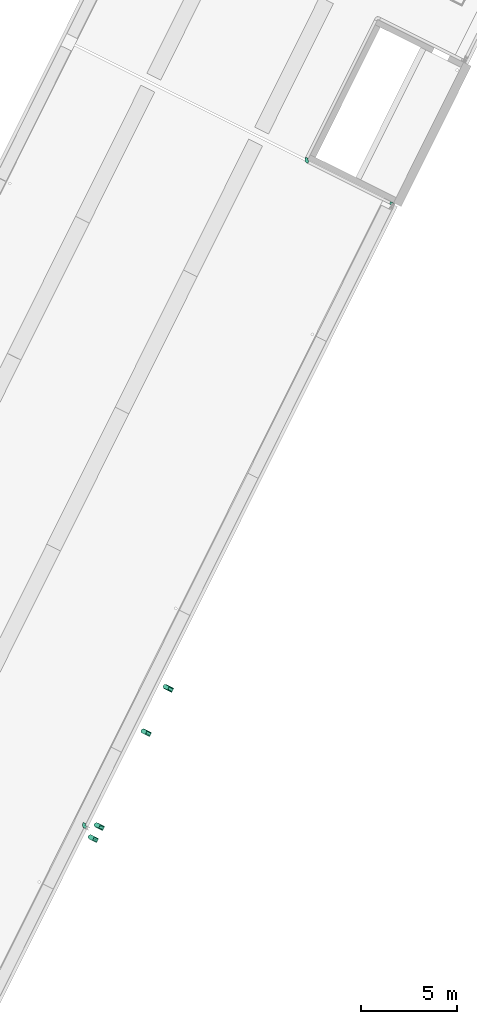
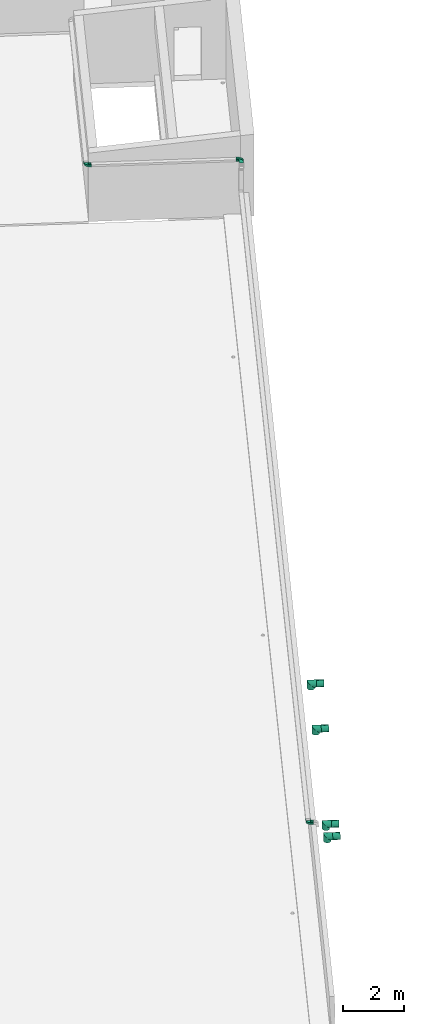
# One storey, part 17 of 34: 7 flow fittings, 4 flow segments.
"""IFC2X3 building model written with IfcOpenShell, lengths in metres."""

from ifc_helpers import new_model, entity, si_unit, converted_unit, derived_unit, direction, frame, origin, origin_2d_with_axis, place, context, subcontext, project, spatial, circle, extrude, faceted_brep, source, transform, mapped, type_object, type_shapes, element, save


model = new_model("IFC2X3")

# Units and contexts
model_context = context("Model", 3, precision=1e-05, world=origin(), true_north=direction((0.894925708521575, 0.446215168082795)))
context_of_model = context(None, 3, precision=1e-05, world=origin(), true_north=direction((0.894925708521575, 0.446215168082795)))
body_context = subcontext(model_context, "Body", "Model", "MODEL_VIEW")
ifc_project = project(units=[si_unit("LENGTHUNIT", "METRE"), si_unit("AREAUNIT", "SQUARE_METRE"), si_unit("VOLUMEUNIT", "CUBIC_METRE"), converted_unit("PLANEANGLEUNIT", "DEGREE", entity("IfcRatioMeasure", 0.0174532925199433), si_unit("PLANEANGLEUNIT", "RADIAN"), dimensions=[0, 0, 0, 0, 0, 0, 0]), si_unit("MASSUNIT", "GRAM", prefix="KILO"), si_unit("TIMEUNIT", "SECOND"), si_unit("FREQUENCYUNIT", "HERTZ"), si_unit("THERMODYNAMICTEMPERATUREUNIT", "DEGREE_CELSIUS"), derived_unit("THERMALTRANSMITTANCEUNIT", [(si_unit("MASSUNIT", "GRAM", prefix="KILO"), 1), (si_unit("THERMODYNAMICTEMPERATUREUNIT", "KELVIN"), -1), (si_unit("TIMEUNIT", "SECOND"), -3)]), derived_unit("VOLUMETRICFLOWRATEUNIT", [(si_unit("LENGTHUNIT", "METRE"), 3), (si_unit("TIMEUNIT", "SECOND"), -1)]), si_unit("ELECTRICCURRENTUNIT", "AMPERE"), si_unit("ELECTRICVOLTAGEUNIT", "VOLT"), si_unit("POWERUNIT", "WATT"), si_unit("FORCEUNIT", "NEWTON", prefix="KILO"), si_unit("ILLUMINANCEUNIT", "LUX"), si_unit("LUMINOUSFLUXUNIT", "LUMEN"), si_unit("LUMINOUSINTENSITYUNIT", "CANDELA"), si_unit("PRESSUREUNIT", "PASCAL")], contexts=[model_context, context_of_model])

# Site, building, storey
site_placement = place(None, frame((218.228324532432, 584.720189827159, 0.0), z_axis=(0.0, 0.0, 1.0), x_axis=(0.446215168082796, 0.894925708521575, 0.0)))
site = spatial("IfcSite", under=ifc_project, at=site_placement, Name="Default", CompositionType="ELEMENT")
building_placement = place(site_placement, origin())
building = spatial("IfcBuilding", under=site, at=building_placement, CompositionType="ELEMENT")
storey_placement = place(building_placement, frame((0.0, 0.0, 8.61)))
storey = spatial("IfcBuildingStorey", under=building, at=storey_placement, Name="2 - Piano Secondo", CompositionType="ELEMENT", Elevation=8.61)

# Flow fittings
duct_fitting_type = type_object("IfcDuctFittingType", Name="Standard", PredefinedType="NOTDEFINED")
shared_shape_1 = source(origin(), body_context, "Body", "Brep", [
    faceted_brep([(-0.0883883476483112, 0.175297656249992, -0.0883883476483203), (-0.108253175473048, 0.175297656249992, -0.0625000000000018), (-0.120740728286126, 0.175297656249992, -0.0323523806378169), (-0.124999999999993, 0.175297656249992, 0.0), (-0.120740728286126, 0.175297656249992, 0.0323523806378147), (-0.108253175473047, 0.175297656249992, 0.0624999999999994), (-0.0883883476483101, 0.175297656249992, 0.0883883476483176), (-0.0624999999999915, 0.175297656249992, 0.108253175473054), (-0.0323523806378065, 0.175297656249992, 0.120740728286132), (0.0, 0.175297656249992, 0.124999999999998), (0.0323523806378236, 0.175297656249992, 0.120740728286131), (0.0625000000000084, 0.175297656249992, 0.108253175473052), (0.0883883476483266, 0.175297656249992, 0.0883883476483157), (0.108253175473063, 0.175297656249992, 0.062499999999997), (0.120740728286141, 0.175297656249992, 0.032352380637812), (0.125000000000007, 0.175297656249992, 0.0), (0.120740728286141, 0.175297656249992, -0.0323523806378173), (0.108253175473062, 0.175297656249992, -0.0625000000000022), (0.0883883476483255, 0.175297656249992, -0.0883883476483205), (0.0625000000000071, 0.175297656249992, -0.108253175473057), (0.0323523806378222, 0.175297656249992, -0.120740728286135), (0.0, 0.175297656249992, -0.125000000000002), (-0.032352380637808, 0.175297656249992, -0.120740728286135), (-0.0624999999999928, 0.175297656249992, -0.108253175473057), (0.120740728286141, 0.125297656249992, 0.032352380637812), (0.12074072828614, -0.120740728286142, 0.0323523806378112), (0.125000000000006, -0.125000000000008, 0.0), (0.125000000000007, 0.125297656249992, 0.0), (0.108253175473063, 0.125297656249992, 0.062499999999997), (0.108253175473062, -0.108253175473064, 0.0624999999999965), (0.0883883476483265, 0.125297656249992, 0.0883883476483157), (0.0625000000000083, 0.125297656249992, 0.108253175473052), (0.0625000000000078, -0.0625000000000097, 0.108253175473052), (0.0883883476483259, -0.0883883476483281, 0.0883883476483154), (0.0323523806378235, 0.125297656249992, 0.120740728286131), (0.0323523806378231, -0.032352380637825, 0.120740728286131), (0.0, 0.125297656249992, 0.124999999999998), (0.0, 0.0, 0.124999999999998), (-0.0624999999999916, 0.125297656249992, 0.108253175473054), (-0.0624999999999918, 0.0624999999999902, 0.108253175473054), (-0.0323523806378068, 0.0323523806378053, 0.120740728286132), (-0.0323523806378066, 0.125297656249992, 0.120740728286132), (-0.0883883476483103, 0.125297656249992, 0.0883883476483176), (-0.0883883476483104, 0.0883883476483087, 0.0883883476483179), (-0.108253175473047, 0.125297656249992, 0.0624999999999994), (-0.120740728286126, 0.125297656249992, 0.0323523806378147), (-0.120740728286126, 0.120740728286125, 0.0323523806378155), (-0.108253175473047, 0.108253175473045, 0.0624999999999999), (-0.124999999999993, 0.125297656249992, 0.0), (-0.124999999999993, 0.124999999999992, 0.0), (-0.120740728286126, 0.125297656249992, -0.0323523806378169), (-0.120740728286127, 0.120740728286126, -0.0323523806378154), (-0.108253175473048, 0.125297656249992, -0.0625000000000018), (-0.108253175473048, 0.108253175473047, -0.0625000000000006), (-0.0883883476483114, 0.125297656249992, -0.0883883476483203), (-0.062499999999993, 0.125297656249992, -0.108253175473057), (-0.0624999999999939, 0.0624999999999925, -0.108253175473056), (-0.088388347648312, 0.0883883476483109, -0.0883883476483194), (-0.0323523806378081, 0.125297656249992, -0.120740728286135), (-0.0323523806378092, 0.0323523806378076, -0.120740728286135), (0.0, 0.125297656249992, -0.125000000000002), (0.0, 0.0, -0.125000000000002), (0.0625000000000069, 0.125297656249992, -0.108253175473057), (0.0883883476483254, 0.125297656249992, -0.0883883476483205), (0.0883883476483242, -0.0883883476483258, -0.0883883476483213), (0.0625000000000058, -0.0625000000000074, -0.108253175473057), (0.0323523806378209, -0.0323523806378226, -0.120740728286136), (0.0323523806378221, 0.125297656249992, -0.120740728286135), (0.120740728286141, 0.125297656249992, -0.0323523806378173), (0.12074072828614, -0.120740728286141, -0.0323523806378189), (0.108253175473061, -0.108253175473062, -0.0625000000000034), (0.108253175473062, 0.125297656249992, -0.0625000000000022), (-0.125297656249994, -0.125000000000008, 0.0), (-0.125297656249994, -0.120740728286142, 0.032352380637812), (-0.175297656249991, -0.120740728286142, 0.032352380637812), (-0.175297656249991, -0.125000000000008, 0.0), (-0.125297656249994, -0.108253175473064, 0.062499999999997), (-0.175297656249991, -0.108253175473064, 0.062499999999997), (-0.125297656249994, -0.0883883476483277, 0.0883883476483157), (-0.125297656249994, -0.0625000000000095, 0.108253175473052), (-0.175297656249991, -0.0625000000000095, 0.108253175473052), (-0.175297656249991, -0.0883883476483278, 0.0883883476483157), (-0.125297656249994, -0.0323523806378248, 0.120740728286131), (-0.175297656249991, -0.0323523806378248, 0.120740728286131), (-0.125297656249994, 0.0, 0.124999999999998), (-0.175297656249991, 0.0, 0.124999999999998), (-0.125297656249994, 0.0883883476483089, 0.0883883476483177), (-0.175297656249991, 0.088388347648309, 0.0883883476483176), (-0.175297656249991, 0.0624999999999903, 0.108253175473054), (-0.125297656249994, 0.0624999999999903, 0.108253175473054), (-0.175297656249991, 0.0323523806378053, 0.120740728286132), (-0.125297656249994, 0.0323523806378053, 0.120740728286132), (-0.125297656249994, 0.124999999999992, 0.0), (-0.175297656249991, 0.124999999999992, 0.0), (-0.175297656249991, 0.120740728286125, 0.0323523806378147), (-0.125297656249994, 0.120740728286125, 0.0323523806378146), (-0.175297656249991, 0.108253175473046, 0.0624999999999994), (-0.125297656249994, 0.108253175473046, 0.0624999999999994), (-0.125297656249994, 0.0883883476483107, -0.0883883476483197), (-0.175297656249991, 0.0883883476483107, -0.0883883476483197), (-0.175297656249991, 0.108253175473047, -0.0625000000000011), (-0.125297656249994, 0.108253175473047, -0.0625000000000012), (-0.175297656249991, 0.120740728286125, -0.0323523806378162), (-0.125297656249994, 0.120740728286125, -0.0323523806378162), (-0.125297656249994, 0.0323523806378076, -0.120740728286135), (-0.125297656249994, 0.0, -0.125000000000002), (-0.175297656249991, 0.0, -0.125000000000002), (-0.175297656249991, 0.0323523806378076, -0.120740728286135), (-0.175297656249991, 0.0624999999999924, -0.108253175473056), (-0.125297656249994, 0.0624999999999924, -0.108253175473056), (-0.125297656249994, -0.0625000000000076, -0.108253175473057), (-0.175297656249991, -0.0625000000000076, -0.108253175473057), (-0.175297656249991, -0.0323523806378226, -0.120740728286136), (-0.125297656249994, -0.0323523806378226, -0.120740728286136), (-0.125297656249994, -0.0883883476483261, -0.088388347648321), (-0.175297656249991, -0.0883883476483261, -0.088388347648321), (-0.125297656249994, -0.120740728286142, -0.032352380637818), (-0.175297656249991, -0.120740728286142, -0.032352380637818), (-0.175297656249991, -0.108253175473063, -0.0625000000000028), (-0.125297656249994, -0.108253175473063, -0.0625000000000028)], [[[0, 1, 2, 3, 4, 5, 6, 7, 8, 9, 10, 11, 12, 13, 14, 15, 16, 17, 18, 19, 20, 21, 22, 23]], [[14, 24, 25, 26, 27, 15]], [[13, 28, 29, 25, 24, 14]], [[30, 12, 11, 31, 32, 33]], [[13, 12, 30, 33, 29, 28]], [[31, 11, 10, 34, 35, 32]], [[34, 10, 9, 36, 37, 35]], [[7, 38, 39, 40, 41, 8]], [[6, 42, 43, 39, 38, 7]], [[44, 5, 4, 45, 46, 47]], [[6, 5, 44, 47, 43, 42]], [[45, 4, 3, 48, 49, 46]], [[41, 40, 37, 36, 9, 8]], [[2, 50, 51, 49, 48, 3]], [[1, 52, 53, 51, 50, 2]], [[54, 0, 23, 55, 56, 57]], [[1, 0, 54, 57, 53, 52]], [[55, 23, 22, 58, 59, 56]], [[58, 22, 21, 60, 61, 59]], [[62, 19, 18, 63, 64, 65]], [[20, 19, 62, 65, 66, 67]], [[68, 69, 70, 71, 17, 16]], [[17, 71, 70, 64, 63, 18]], [[15, 27, 26, 69, 68, 16]], [[20, 67, 66, 61, 60, 21]], [[72, 26, 25, 73, 74, 75]], [[29, 76, 77, 74, 73, 25]], [[78, 33, 32, 79, 80, 81]], [[29, 33, 78, 81, 77, 76]], [[79, 32, 35, 82, 83, 80]], [[37, 84, 85, 83, 82, 35]], [[39, 43, 86, 87, 88, 89]], [[40, 39, 89, 88, 90, 91]], [[46, 49, 92, 93, 94, 95]], [[47, 46, 95, 94, 96, 97]], [[43, 47, 97, 96, 87, 86]], [[40, 91, 90, 85, 84, 37]], [[53, 57, 98, 99, 100, 101]], [[51, 53, 101, 100, 102, 103]], [[104, 59, 61, 105, 106, 107]], [[56, 59, 104, 107, 108, 109]], [[57, 56, 109, 108, 99, 98]], [[49, 51, 103, 102, 93, 92]], [[65, 110, 111, 112, 113, 66]], [[64, 114, 115, 111, 110, 65]], [[116, 117, 118, 119, 70, 69]], [[64, 70, 119, 118, 115, 114]], [[72, 75, 117, 116, 69, 26]], [[113, 112, 106, 105, 61, 66]], [[106, 112, 111, 115, 118, 117, 75, 74, 77, 81, 80, 83, 85, 90, 88, 87, 96, 94, 93, 102, 100, 99, 108, 107]]]),
])
type_shapes(duct_fitting_type, [shared_shape_1])
for number, where, z_axis, x_axis, name in (
    (1, (-48.8369662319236, -13.728622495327, 0.724999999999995), (1.0, 0.0, 0.0), (0.0, 0.0, 1.0), "M_Gomito ad angolo circolare - DTL:Standard"),
    (2, (-49.5416952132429, -13.728622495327, 0.724999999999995), (1.0, 0.0, 0.0), (0.0, 0.0, 1.0), "M_Gomito ad angolo circolare - DTL:Standard"),
    (3, (-43.3488335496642, -13.728622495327, 0.724999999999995), (1.0, 0.0, 0.0), (0.0, 0.0, 1.0), "M_Gomito ad angolo circolare - DTL:Standard"),
    (4, (-40.7557238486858, -13.728622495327, 0.724999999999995), (1.0, 0.0, 0.0), (0.0, 0.0, 1.0), "M_Gomito ad angolo circolare - DTL:Standard"),
):
    element("IfcFlowFitting", number, at=place(storey_placement, frame(where, z_axis=z_axis, x_axis=x_axis)), inside=storey, type_object=duct_fitting_type, Name=name, ObjectType="Standard", context=body_context, shape_type="MappedRepresentation", body=[
        mapped(shared_shape_1, transform((0.0, 0.0, 0.0), scale=1.0)),
    ])

# Flow segments
duct_segment_type = type_object("IfcDuctSegmentType", Name="Condotto circolare:Canna fumaria", PredefinedType="NOTDEFINED")
for number, where, name in (
    (5, (-48.9635615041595, -14.153920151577, 0.598404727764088), "Condotto circolare:Canna fumaria"),
    (6, (-49.6682904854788, -14.153920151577, 0.598404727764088), "Condotto circolare:Canna fumaria"),
    (7, (-43.4754288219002, -14.153920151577, 0.598404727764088), "Condotto circolare:Canna fumaria"),
    (8, (-40.8823191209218, -14.153920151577, 0.598404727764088), "Condotto circolare:Canna fumaria"),
):
    element("IfcFlowSegment", number, at=place(storey_placement, frame(where)), inside=storey, type_object=duct_segment_type, Name=name, ObjectType="Condotto circolare:Canna fumaria", context=body_context, shape_type="SweptSolid", body=[
        extrude(circle(Radius=0.125, at=origin_2d_with_axis()), frame((0.126595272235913, 0.0, 0.126595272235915), z_axis=(0.0, 1.0, 0.0), x_axis=(1.0, 0.0, 0.0)), (0.0, 0.0, 1.0), 0.250000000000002),
    ])

# Flow fittings
cable_carrier_fitting_type = type_object("IfcCableCarrierFittingType", Name="Standard", PredefinedType="NOTDEFINED")
shared_shape_2 = source(origin(), body_context, "Body", "Brep", [
    faceted_brep([(-0.169999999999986, -0.0724600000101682, -0.0349600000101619), (-0.169999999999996, 0.0724600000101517, -0.0349600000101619), (-0.169999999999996, 0.0724600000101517, 0.0374999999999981), (-0.169999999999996, 0.0749999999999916, 0.0374999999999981), (-0.169999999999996, 0.0749999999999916, -0.0375000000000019), (-0.169999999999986, -0.0750000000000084, -0.0375000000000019), (-0.169999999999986, -0.0750000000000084, 0.0374999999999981), (-0.169999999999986, -0.0724600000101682, 0.0374999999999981), (-0.0749999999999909, 0.169999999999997, -0.0375000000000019), (-0.0749999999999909, 0.169999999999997, 0.0374999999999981), (-0.0724600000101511, 0.169999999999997, 0.0374999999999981), (-0.0724600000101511, 0.169999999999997, -0.0349600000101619), (0.0724600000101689, 0.169999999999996, -0.0349600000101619), (0.0724600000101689, 0.169999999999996, 0.0374999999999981), (0.075000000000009, 0.169999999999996, 0.0374999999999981), (0.075000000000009, 0.169999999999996, -0.0375000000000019), (-0.09499999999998, -0.0750000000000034, -0.0375000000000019), (-0.0949999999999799, -0.0750000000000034, 0.0374999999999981), (-0.0510007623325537, -0.0692073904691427, 0.0374999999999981), (-0.00999999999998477, -0.0522243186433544, 0.0374999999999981), (0.0252081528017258, -0.0252081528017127, 0.0374999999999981), (0.0522243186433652, 0.0099999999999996, 0.0374999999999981), (0.069207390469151, 0.0510007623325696, 0.0374999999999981), (0.0750000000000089, 0.0949999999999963, 0.0374999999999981), (0.0724600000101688, 0.0949999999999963, 0.0374999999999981), (0.0667539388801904, 0.0516581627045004, 0.0374999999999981), (0.0500246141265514, 0.0112699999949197, 0.0374999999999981), (0.023412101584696, -0.023412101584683, 0.0374999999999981), (-0.011269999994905, -0.0500246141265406, 0.0374999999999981), (-0.0516581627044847, -0.0667539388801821, 0.0374999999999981), (-0.0949999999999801, -0.0724600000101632, 0.0374999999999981), (-0.0949999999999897, 0.0724600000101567, 0.0374999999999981), (-0.08936500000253, 0.0739698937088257, 0.0374999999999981), (-0.0837300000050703, 0.0754797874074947, 0.0374999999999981), (-0.0796048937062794, 0.0796048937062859, 0.0374999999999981), (-0.0754797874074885, 0.083730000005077, 0.0374999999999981), (-0.0736114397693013, 0.0907027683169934, 0.0374999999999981), (-0.0724600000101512, 0.0949999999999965, 0.0374999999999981), (-0.0749999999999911, 0.0949999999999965, 0.0374999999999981), (-0.0763551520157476, 0.0917283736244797, 0.0374999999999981), (-0.0779289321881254, 0.0879289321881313, 0.0374999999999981), (-0.0793933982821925, 0.0843933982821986, 0.0374999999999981), (-0.0808578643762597, 0.080857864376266, 0.0374999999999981), (-0.0846573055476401, 0.0792840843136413, 0.0374999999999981), (-0.0884567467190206, 0.0777103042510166, 0.0374999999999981), (-0.0917283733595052, 0.0763551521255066, 0.0374999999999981), (-0.0949999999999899, 0.0749999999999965, 0.0374999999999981), (-0.0949999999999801, -0.0724600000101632, -0.0349600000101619), (-0.0516581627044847, -0.0667539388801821, -0.0349600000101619), (-0.011269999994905, -0.0500246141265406, -0.0349600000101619), (0.023412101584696, -0.023412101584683, -0.0349600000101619), (0.0500246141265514, 0.0112699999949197, -0.0349600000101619), (0.0667539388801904, 0.0516581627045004, -0.0349600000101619), (0.0724600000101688, 0.0949999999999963, -0.0349600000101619), (-0.0724600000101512, 0.0949999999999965, -0.0349600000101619), (-0.0739698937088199, 0.0893650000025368, -0.0349600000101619), (-0.0754797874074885, 0.083730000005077, -0.0349600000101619), (-0.0796048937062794, 0.0796048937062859, -0.0349600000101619), (-0.0837300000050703, 0.0754797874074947, -0.0349600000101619), (-0.0907027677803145, 0.0736114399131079, -0.0349600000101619), (-0.0949999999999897, 0.0724600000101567, -0.0349600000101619), (-0.0949999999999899, 0.0749999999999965, -0.0375000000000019), (-0.0749999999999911, 0.0949999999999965, -0.0375000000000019), (0.0750000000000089, 0.0949999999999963, -0.0375000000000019), (0.069207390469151, 0.0510007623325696, -0.0375000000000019), (0.0522243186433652, 0.0099999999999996, -0.0375000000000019), (0.0252081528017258, -0.0252081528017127, -0.0375000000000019), (-0.00999999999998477, -0.0522243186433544, -0.0375000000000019), (-0.0510007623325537, -0.0692073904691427, -0.0375000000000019), (-0.0914644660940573, 0.0764644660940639, -0.0375000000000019), (-0.0879289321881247, 0.0779289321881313, -0.0375000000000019), (-0.0843933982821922, 0.0793933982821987, -0.0375000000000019), (-0.0808578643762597, 0.080857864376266, -0.0375000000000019), (-0.0793933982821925, 0.0843933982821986, -0.0375000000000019), (-0.0779289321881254, 0.0879289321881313, -0.0375000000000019), (-0.0764644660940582, 0.0914644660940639, -0.0375000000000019)], [[[0, 1, 2, 3, 4, 5, 6, 7]], [[8, 9, 10, 11, 12, 13, 14, 15]], [[6, 5, 16, 17]], [[7, 6, 17, 18, 19, 20, 21, 22, 23, 14, 13, 24, 25, 26, 27, 28, 29, 30]], [[2, 31, 32, 33, 34, 35, 36, 37, 10, 9, 38, 39, 40, 41, 42, 43, 44, 45, 46, 3]], [[0, 7, 30, 47]], [[1, 0, 47, 48, 49, 50, 51, 52, 53, 12, 11, 54, 55, 56, 57, 58, 59, 60]], [[2, 1, 60, 31]], [[4, 3, 46, 61]], [[62, 8, 15, 63, 64, 65, 66, 67, 68, 16, 5, 4, 61, 69, 70, 71, 72, 73, 74, 75]], [[18, 17, 16, 68]], [[19, 18, 68, 67]], [[20, 19, 67, 66]], [[21, 65, 64, 22]], [[22, 64, 63, 23]], [[66, 65, 21, 20]], [[48, 47, 30, 29]], [[49, 48, 29, 28]], [[49, 28, 27, 50]], [[52, 51, 26, 25]], [[53, 52, 25, 24]], [[27, 26, 51, 50]], [[32, 31, 60, 59, 58, 33]], [[56, 35, 34, 33, 58, 57]], [[54, 37, 36, 35, 56, 55]], [[43, 42, 72, 71, 70, 69, 61, 46, 45, 44]], [[41, 40, 39, 38, 62, 75, 74, 73, 72, 42]], [[23, 63, 15, 14]], [[53, 24, 13, 12]], [[37, 54, 11, 10]], [[62, 38, 9, 8]]]),
])
type_shapes(cable_carrier_fitting_type, [shared_shape_2])
flow_fitting_placement = place(storey_placement, frame((-12.8693716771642, -13.1260789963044, 2.35)))
element("IfcFlowFitting", 9, at=flow_fitting_placement, inside=storey, type_object=cable_carrier_fitting_type, Name="M_Curvatura orizzontale canale:Standard", ObjectType="Standard", context=body_context, shape_type="MappedRepresentation", body=[
    mapped(shared_shape_2, transform((0.0, 0.0, 0.0), scale=1.0)),
])
for number, where, z_axis, x_axis, name in (
    (10, (-49.1916952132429, -13.1260789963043, 1.06), (0.0, 0.0, 1.0), (-1.0, 0.0, 0.0), "M_Curvatura orizzontale canale:Standard"),
    (11, (-12.8693716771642, -8.01607899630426, 2.35), (0.0, 0.0, 1.0), (-1.0, 0.0, 0.0), "M_Curvatura orizzontale canale:Standard"),
):
    element("IfcFlowFitting", number, at=place(storey_placement, frame(where, z_axis=z_axis, x_axis=x_axis)), inside=storey, type_object=cable_carrier_fitting_type, Name=name, ObjectType="Standard", context=body_context, shape_type="MappedRepresentation", body=[
        mapped(shared_shape_2, transform((0.0, 0.0, 0.0), scale=1.0)),
    ])

save(model, "model.ifc")
